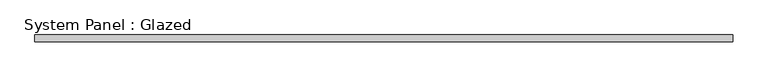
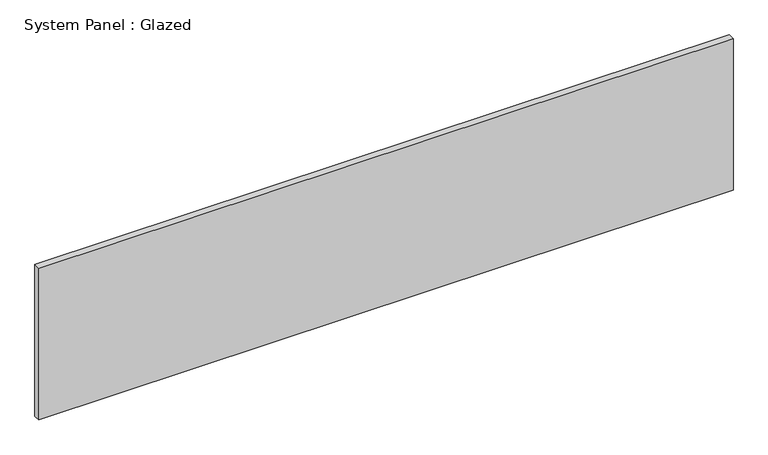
"""IFC4 building model written with IfcOpenShell, lengths in millimetres: plate geometry, System Panel : Glazed."""

from ifc_helpers import new_model, si_unit, origin, origin_with_axes, place, context, project, spatial, polyline, outline, extrude, source, transform, mapped, element, save


def system_panel_glazed_53f81c78(model_context):
    return source(origin(), model_context, "Body", "SweptSolid", [
        extrude(outline(polyline([(1319.7377931, 19.05), (-1319.7377931, 19.05), (-1319.7377931, 44.45), (1319.7377931, 44.45), (1319.7377931, 19.05)])), origin_with_axes(), (0.0, 0.0, 1.0), 609.6),
    ])


if __name__ == "__main__":
    model = new_model("IFC4")
    model_context = context("Model", 3, world=origin())
    ifc_project = project(units=[si_unit("LENGTHUNIT", "METRE", prefix="MILLI")], contexts=[model_context])
    site = spatial("IfcSite", under=ifc_project)
    building = spatial("IfcBuilding", under=site)
    placement = place(None, origin())
    system_panel_glazed_shape = system_panel_glazed_53f81c78(model_context)
    element("IfcPlate", 1, ObjectType="System Panel : Glazed", at=placement, inside=building, context=model_context, shape_type="MappedRepresentation", body=[
        mapped(system_panel_glazed_shape, transform((0.0, 0.0, 0.0), x_axis=(1.0, 0.0, 0.0), y_axis=(0.0, 1.0, 0.0), z_axis=(0.0, 0.0, 1.0))),
    ])
    save(model, "model.ifc")
